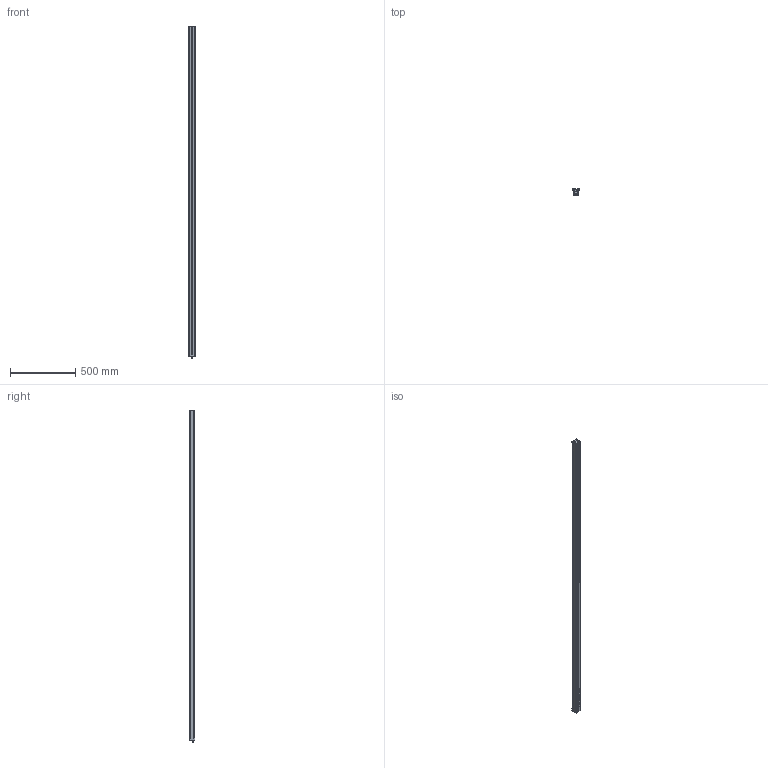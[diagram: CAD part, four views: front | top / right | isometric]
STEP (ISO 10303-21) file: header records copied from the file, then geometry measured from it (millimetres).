
FILE_DESCRIPTION (( 'STEP AP214' ), '1' );
FILE_NAME ('EBAR-HPS-2500-xxx-UN_CLIENT.STEP', '2025-11-18T13:13:05', ( '' ), ( '' ), 'SwSTEP 2.0', 'SolidWorks 2025', '' );
FILE_SCHEMA (( 'AUTOMOTIVE_DESIGN' ));
Length unit declared in the file: millimetre
Products named in the file (3): EBAR-HPS-2500-xxx-UN_CLIENT; M4 T-Slot Nut; EBAR-HPS-xxx-xxx-xx_CLIENT - T-Power_2500
Assembly tree (37 placements, depth 2):
  EBAR-HPS-2500-xxx-UN_CLIENT
    EBAR-HPS-xxx-xxx-xx_CLIENT - T-Power_2500
    M4 T-Slot Nut  x36
Bounding box: 47.63 x 45 x 2545.06 mm (x, y, z)
Volume: 4292749.4 mm3; surface area: 610182.6 mm2
Topology: 37 solids, 37 shells, 1424 faces, 3688 edges, 2428 vertices
Faces by surface type: plane 799, cylinder 371, bspline 140, torus 62, sphere 40, cone 12
Entity records: 29649 total; most frequent: CARTESIAN_POINT 10335, ORIENTED_EDGE 4138, DIRECTION 3640, EDGE_CURVE 2069, VERTEX_POINT 1343, AXIS2_PLACEMENT_3D 1252, VECTOR 1136, LINE 1136
